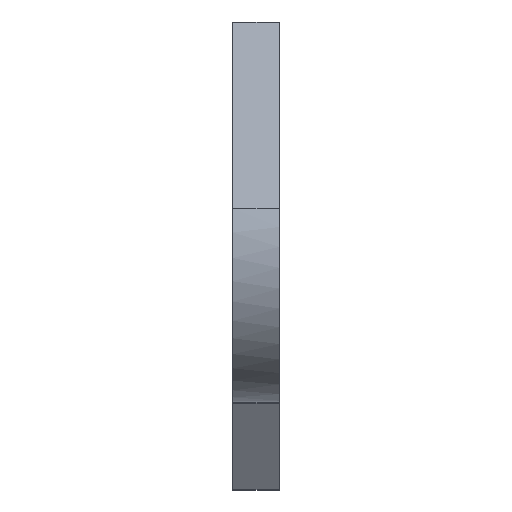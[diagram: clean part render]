
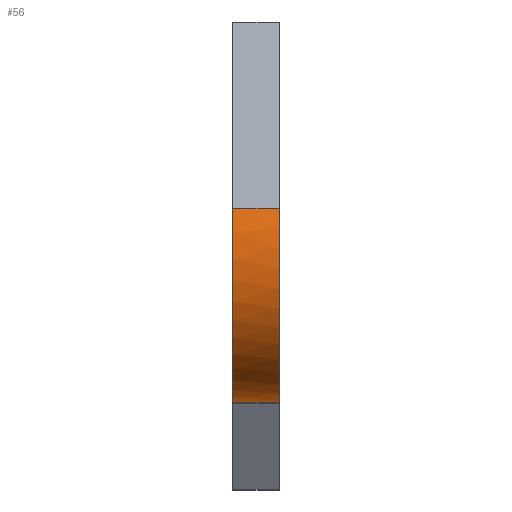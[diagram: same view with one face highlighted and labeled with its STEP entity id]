
A CAD part, top view. The second image highlights one B-rep face of the part: STEP entity #56.
In plain terms, the highlighted free-form (B-spline) face has degree [2, 1] with [5, 2] control points.
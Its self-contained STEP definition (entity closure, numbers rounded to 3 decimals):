
#56=ADVANCED_FACE('',(#113),#2216,.T.);
#113=FACE_OUTER_BOUND('',#170,.T.);
#170=EDGE_LOOP('',(#259,#260,#261,#262));
#259=ORIENTED_EDGE('',*,*,#1787,.T.);
#260=ORIENTED_EDGE('',*,*,#1788,.T.);
#261=ORIENTED_EDGE('',*,*,#1789,.T.);
#262=ORIENTED_EDGE('',*,*,#1790,.T.);
#589=PCURVE('',#2216,#919);
#590=PCURVE('',#2216,#920);
#591=PCURVE('',#2216,#921);
#592=PCURVE('',#2216,#922);
#596=PCURVE('',#2185,#926);
#614=PCURVE('',#2189,#944);
#783=PCURVE('',#2214,#1113);
#832=PCURVE('',#2215,#1162);
#919=DEFINITIONAL_REPRESENTATION('',(#1249),#4143);
#920=DEFINITIONAL_REPRESENTATION('',(#1250),#4143);
#921=DEFINITIONAL_REPRESENTATION('',(#1251),#4143);
#922=DEFINITIONAL_REPRESENTATION('',(#1252),#4143);
#926=DEFINITIONAL_REPRESENTATION('',(#1259),#4143);
#944=DEFINITIONAL_REPRESENTATION('',(#1290),#4143);
#1113=DEFINITIONAL_REPRESENTATION('',(#2008),#4143);
#1162=DEFINITIONAL_REPRESENTATION('',(#2041),#4143);
#1249=B_SPLINE_CURVE_WITH_KNOTS('',1,(#2857,#2858),.UNSPECIFIED.,.F.,.F.,
(2,2),(0.,35.978),.UNSPECIFIED.);
#1250=B_SPLINE_CURVE_WITH_KNOTS('',1,(#2861,#2862),.UNSPECIFIED.,.F.,.F.,
(2,2),(0.,6.),.UNSPECIFIED.);
#1251=B_SPLINE_CURVE_WITH_KNOTS('',1,(#2868,#2869),.UNSPECIFIED.,.F.,.F.,
(2,2),(-35.978,0.),.UNSPECIFIED.);
#1252=B_SPLINE_CURVE_WITH_KNOTS('',1,(#2872,#2873),.UNSPECIFIED.,.F.,.F.,
(2,2),(-6.,0.),.UNSPECIFIED.);
#1259=B_SPLINE_CURVE_WITH_KNOTS('',1,(#2886,#2887),.UNSPECIFIED.,.F.,.F.,
(2,2),(0.,6.),.UNSPECIFIED.);
#1290=B_SPLINE_CURVE_WITH_KNOTS('',1,(#2948,#2949),.UNSPECIFIED.,.F.,.F.,
(2,2),(-6.,0.),.UNSPECIFIED.);
#1622=SURFACE_CURVE('',#1952,(#589,#783),.PCURVE_S1.);
#1623=SURFACE_CURVE('',#1953,(#590,#596),.PCURVE_S1.);
#1624=SURFACE_CURVE('',#1954,(#591,#832),.PCURVE_S1.);
#1625=SURFACE_CURVE('',#1955,(#592,#614),.PCURVE_S1.);
#1787=EDGE_CURVE('',#2074,#2075,#1622,.T.);
#1788=EDGE_CURVE('',#2075,#2076,#1623,.T.);
#1789=EDGE_CURVE('',#2076,#2077,#1624,.T.);
#1790=EDGE_CURVE('',#2077,#2074,#1625,.T.);
#1952=(
BOUNDED_CURVE()
B_SPLINE_CURVE(2,(#2852,#2853,#2854,#2855,#2856),.UNSPECIFIED.,.F.,.F.)
B_SPLINE_CURVE_WITH_KNOTS((3,2,3),(0.,17.989,35.978),
 .UNSPECIFIED.)
CURVE()
GEOMETRIC_REPRESENTATION_ITEM()
RATIONAL_B_SPLINE_CURVE((1.,0.89,1.,0.89,1.))
REPRESENTATION_ITEM('')
);
#1953=(
BOUNDED_CURVE()
B_SPLINE_CURVE(1,(#2859,#2860),.UNSPECIFIED.,.F.,.F.)
B_SPLINE_CURVE_WITH_KNOTS((2,2),(0.,6.),.UNSPECIFIED.)
CURVE()
GEOMETRIC_REPRESENTATION_ITEM()
RATIONAL_B_SPLINE_CURVE((1.,1.))
REPRESENTATION_ITEM('')
);
#1954=(
BOUNDED_CURVE()
B_SPLINE_CURVE(2,(#2863,#2864,#2865,#2866,#2867),.UNSPECIFIED.,.F.,.F.)
B_SPLINE_CURVE_WITH_KNOTS((3,2,3),(-35.978,-17.989,0.),
 .UNSPECIFIED.)
CURVE()
GEOMETRIC_REPRESENTATION_ITEM()
RATIONAL_B_SPLINE_CURVE((1.,0.89,1.,0.89,1.))
REPRESENTATION_ITEM('')
);
#1955=(
BOUNDED_CURVE()
B_SPLINE_CURVE(1,(#2870,#2871),.UNSPECIFIED.,.F.,.F.)
B_SPLINE_CURVE_WITH_KNOTS((2,2),(-6.,0.),.UNSPECIFIED.)
CURVE()
GEOMETRIC_REPRESENTATION_ITEM()
RATIONAL_B_SPLINE_CURVE((1.,1.))
REPRESENTATION_ITEM('')
);
#2008=(
BOUNDED_CURVE()
B_SPLINE_CURVE(2,(#3640,#3641,#3642,#3643,#3644),.UNSPECIFIED.,.F.,.F.)
B_SPLINE_CURVE_WITH_KNOTS((3,2,3),(0.,17.989,35.978),
 .UNSPECIFIED.)
CURVE()
GEOMETRIC_REPRESENTATION_ITEM()
RATIONAL_B_SPLINE_CURVE((1.,0.89,1.,0.89,1.))
REPRESENTATION_ITEM('')
);
#2041=(
BOUNDED_CURVE()
B_SPLINE_CURVE(2,(#3853,#3854,#3855,#3856,#3857),.UNSPECIFIED.,.F.,.F.)
B_SPLINE_CURVE_WITH_KNOTS((3,2,3),(-35.978,-17.989,0.),
 .UNSPECIFIED.)
CURVE()
GEOMETRIC_REPRESENTATION_ITEM()
RATIONAL_B_SPLINE_CURVE((1.,0.89,1.,0.89,1.))
REPRESENTATION_ITEM('')
);
#2074=VERTEX_POINT('',#2742);
#2075=VERTEX_POINT('',#2743);
#2076=VERTEX_POINT('',#2744);
#2077=VERTEX_POINT('',#2745);
#2185=PLANE('',#2261);
#2189=PLANE('',#2265);
#2214=PLANE('',#2290);
#2215=PLANE('',#2291);
#2216=(
BOUNDED_SURFACE()
B_SPLINE_SURFACE(2,1,((#2329,#2330),(#2331,#2332),(#2333,#2334),(#2335,#2336),
(#2337,#2338)),.UNSPECIFIED.,.F.,.F.,.F.)
B_SPLINE_SURFACE_WITH_KNOTS((3,2,3),(2,2),(0.,17.989,35.978),
(0.,6.),.UNSPECIFIED.)
GEOMETRIC_REPRESENTATION_ITEM()
RATIONAL_B_SPLINE_SURFACE(((1.,1.),(0.89,0.89),
(1.,1.),(0.89,0.89),(1.,1.)))
REPRESENTATION_ITEM('')
SURFACE()
);
#2261=AXIS2_PLACEMENT_3D('',#2339,#2295,$);
#2265=AXIS2_PLACEMENT_3D('',#2347,#2299,$);
#2290=AXIS2_PLACEMENT_3D('',#2596,#2324,$);
#2291=AXIS2_PLACEMENT_3D('',#2597,#2325,$);
#2295=DIRECTION('',(0.,-1.,0.));
#2299=DIRECTION('',(0.,0.317,0.948));
#2324=DIRECTION('',(-1.,0.,0.));
#2325=DIRECTION('',(1.,0.,0.));
#2329=CARTESIAN_POINT('',(-26.,291.027,48.019));
#2330=CARTESIAN_POINT('',(-20.,291.027,48.019));
#2331=CARTESIAN_POINT('',(-26.,281.797,51.106));
#2332=CARTESIAN_POINT('',(-20.,281.797,51.106));
#2333=CARTESIAN_POINT('',(-26.,273.899,45.419));
#2334=CARTESIAN_POINT('',(-20.,273.899,45.419));
#2335=CARTESIAN_POINT('',(-26.,266.,39.733));
#2336=CARTESIAN_POINT('',(-20.,266.,39.733));
#2337=CARTESIAN_POINT('',(-26.,266.,30.));
#2338=CARTESIAN_POINT('',(-20.,266.,30.));
#2339=CARTESIAN_POINT('',(-26.,266.,30.));
#2347=CARTESIAN_POINT('',(-26.,315.,40.));
#2596=CARTESIAN_POINT('',(-26.,247.5,-118.625));
#2597=CARTESIAN_POINT('',(-20.,247.5,-118.625));
#2742=CARTESIAN_POINT('',(-26.,291.027,48.019));
#2743=CARTESIAN_POINT('',(-26.,266.,30.));
#2744=CARTESIAN_POINT('',(-20.,266.,30.));
#2745=CARTESIAN_POINT('',(-20.,291.027,48.019));
#2852=CARTESIAN_POINT('',(-26.,291.027,48.019));
#2853=CARTESIAN_POINT('',(-26.,281.797,51.106));
#2854=CARTESIAN_POINT('',(-26.,273.899,45.419));
#2855=CARTESIAN_POINT('',(-26.,266.,39.733));
#2856=CARTESIAN_POINT('',(-26.,266.,30.));
#2857=CARTESIAN_POINT('',(0.,0.));
#2858=CARTESIAN_POINT('',(35.978,0.));
#2859=CARTESIAN_POINT('',(-26.,266.,30.));
#2860=CARTESIAN_POINT('',(-20.,266.,30.));
#2861=CARTESIAN_POINT('',(35.978,0.));
#2862=CARTESIAN_POINT('',(35.978,6.));
#2863=CARTESIAN_POINT('',(-20.,266.,30.));
#2864=CARTESIAN_POINT('',(-20.,266.,39.733));
#2865=CARTESIAN_POINT('',(-20.,273.899,45.419));
#2866=CARTESIAN_POINT('',(-20.,281.797,51.106));
#2867=CARTESIAN_POINT('',(-20.,291.027,48.019));
#2868=CARTESIAN_POINT('',(35.978,6.));
#2869=CARTESIAN_POINT('',(0.,6.));
#2870=CARTESIAN_POINT('',(-20.,291.027,48.019));
#2871=CARTESIAN_POINT('',(-26.,291.027,48.019));
#2872=CARTESIAN_POINT('',(0.,6.));
#2873=CARTESIAN_POINT('',(0.,0.));
#2886=CARTESIAN_POINT('',(35.978,0.));
#2887=CARTESIAN_POINT('',(35.978,6.));
#2948=CARTESIAN_POINT('',(136.21,6.));
#2949=CARTESIAN_POINT('',(136.21,0.));
#3640=CARTESIAN_POINT('',(18.019,-3.473));
#3641=CARTESIAN_POINT('',(21.106,-12.703));
#3642=CARTESIAN_POINT('',(15.419,-20.601));
#3643=CARTESIAN_POINT('',(9.733,-28.5));
#3644=CARTESIAN_POINT('',(0.,-28.5));
#3853=CARTESIAN_POINT('',(-28.5,0.));
#3854=CARTESIAN_POINT('',(-28.5,9.733));
#3855=CARTESIAN_POINT('',(-20.601,15.419));
#3856=CARTESIAN_POINT('',(-12.703,21.106));
#3857=CARTESIAN_POINT('',(-3.473,18.019));
#4143=(
GEOMETRIC_REPRESENTATION_CONTEXT(2)
PARAMETRIC_REPRESENTATION_CONTEXT()
REPRESENTATION_CONTEXT('pspace','')
);
